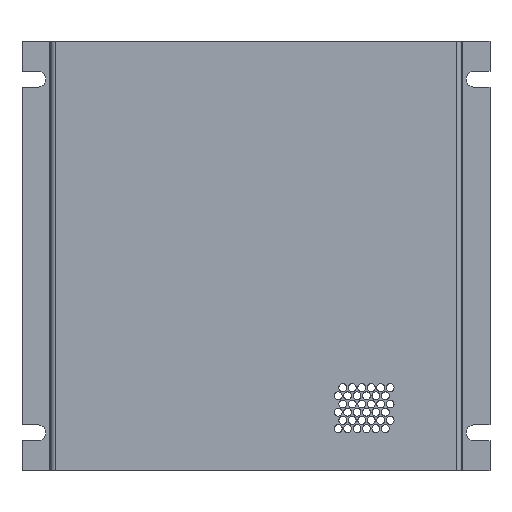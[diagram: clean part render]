
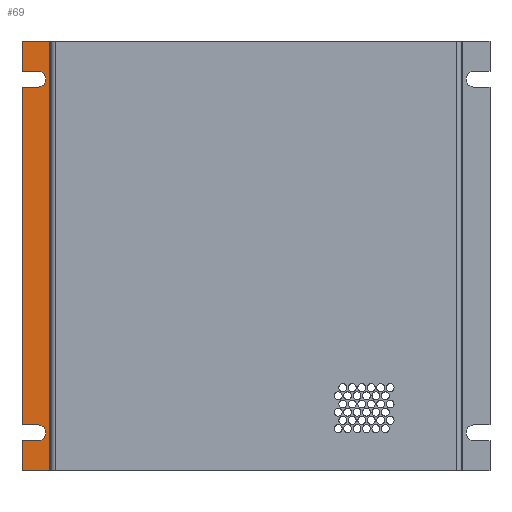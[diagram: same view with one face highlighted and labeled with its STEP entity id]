
A CAD part, front view. The second image highlights one B-rep face of the part: STEP entity #69.
In plain terms, the highlighted planar face has unit normal (0, -1, 0).
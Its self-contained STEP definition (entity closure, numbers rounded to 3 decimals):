
#69 = ADVANCED_FACE( '', ( #206 ), #207, .F. );
#206 = FACE_OUTER_BOUND( '', #462, .T. );
#207 = PLANE( '', #463 );
#462 = EDGE_LOOP( '', ( #832, #833, #834, #835, #836, #837, #838, #839, #840, #841, #842, #843 ) );
#463 = AXIS2_PLACEMENT_3D( '', #844, #845, #846 );
#832 = ORIENTED_EDGE( '', *, *, #1271, .F. );
#833 = ORIENTED_EDGE( '', *, *, #1298, .T. );
#834 = ORIENTED_EDGE( '', *, *, #1291, .F. );
#835 = ORIENTED_EDGE( '', *, *, #1295, .F. );
#836 = ORIENTED_EDGE( '', *, *, #1320, .F. );
#837 = ORIENTED_EDGE( '', *, *, #1321, .F. );
#838 = ORIENTED_EDGE( '', *, *, #1314, .F. );
#839 = ORIENTED_EDGE( '', *, *, #1322, .F. );
#840 = ORIENTED_EDGE( '', *, *, #1323, .F. );
#841 = ORIENTED_EDGE( '', *, *, #1300, .F. );
#842 = ORIENTED_EDGE( '', *, *, #1304, .F. );
#843 = ORIENTED_EDGE( '', *, *, #1307, .T. );
#844 = CARTESIAN_POINT( '', ( 0., 8.077, 0. ) );
#845 = DIRECTION( '', ( 0., 1., 0. ) );
#846 = DIRECTION( '', ( 0., 0., 1. ) );
#1271 = EDGE_CURVE( '', #1506, #1508, #1509, .T. );
#1291 = EDGE_CURVE( '', #1538, #1540, #1541, .F. );
#1295 = EDGE_CURVE( '', #1546, #1538, #1548, .T. );
#1298 = EDGE_CURVE( '', #1506, #1540, #1551, .T. );
#1300 = EDGE_CURVE( '', #1553, #1555, #1556, .T. );
#1304 = EDGE_CURVE( '', #1561, #1553, #1563, .F. );
#1307 = EDGE_CURVE( '', #1561, #1508, #1566, .T. );
#1314 = EDGE_CURVE( '', #1578, #1580, #1581, .T. );
#1320 = EDGE_CURVE( '', #1589, #1546, #1590, .T. );
#1321 = EDGE_CURVE( '', #1580, #1589, #1591, .T. );
#1322 = EDGE_CURVE( '', #1592, #1578, #1593, .T. );
#1323 = EDGE_CURVE( '', #1555, #1592, #1594, .T. );
#1506 = VERTEX_POINT( '', #1846 );
#1508 = VERTEX_POINT( '', #1849 );
#1509 = LINE( '', #1850, #1851 );
#1538 = VERTEX_POINT( '', #1894 );
#1540 = VERTEX_POINT( '', #1897 );
#1541 = CIRCLE( '', #1898, 3.962 );
#1546 = VERTEX_POINT( '', #1904 );
#1548 = LINE( '', #1907, #1908 );
#1551 = LINE( '', #1913, #1914 );
#1553 = VERTEX_POINT( '', #1916 );
#1555 = VERTEX_POINT( '', #1919 );
#1556 = LINE( '', #1920, #1921 );
#1561 = VERTEX_POINT( '', #1928 );
#1563 = CIRCLE( '', #1931, 3.962 );
#1566 = LINE( '', #1935, #1936 );
#1578 = VERTEX_POINT( '', #1951 );
#1580 = VERTEX_POINT( '', #1953 );
#1581 = LINE( '', #1954, #1955 );
#1589 = VERTEX_POINT( '', #1967 );
#1590 = LINE( '', #1968, #1969 );
#1591 = LINE( '', #1970, #1971 );
#1592 = VERTEX_POINT( '', #1972 );
#1593 = LINE( '', #1973, #1974 );
#1594 = LINE( '', #1975, #1976 );
#1846 = CARTESIAN_POINT( '', ( -117.615, 8.077, -84.938 ) );
#1849 = CARTESIAN_POINT( '', ( -117.615, 8.077, 84.938 ) );
#1850 = CARTESIAN_POINT( '', ( -117.615, 8.077, -107.95 ) );
#1851 = VECTOR( '', #2261, 1000. );
#1894 = CARTESIAN_POINT( '', ( -109.538, 8.077, -92.862 ) );
#1897 = CARTESIAN_POINT( '', ( -109.538, 8.077, -84.938 ) );
#1898 = AXIS2_PLACEMENT_3D( '', #2289, #2290, #2291 );
#1904 = CARTESIAN_POINT( '', ( -117.615, 8.077, -92.862 ) );
#1907 = CARTESIAN_POINT( '', ( 0., 8.077, -92.862 ) );
#1908 = VECTOR( '', #2297, 1000. );
#1913 = CARTESIAN_POINT( '', ( 0., 8.077, -84.938 ) );
#1914 = VECTOR( '', #2300, 1000. );
#1916 = CARTESIAN_POINT( '', ( -109.538, 8.077, 92.862 ) );
#1919 = CARTESIAN_POINT( '', ( -117.615, 8.077, 92.862 ) );
#1920 = CARTESIAN_POINT( '', ( 0., 8.077, 92.862 ) );
#1921 = VECTOR( '', #2302, 1000. );
#1928 = CARTESIAN_POINT( '', ( -109.538, 8.077, 84.938 ) );
#1931 = AXIS2_PLACEMENT_3D( '', #2306, #2307, #2308 );
#1935 = CARTESIAN_POINT( '', ( 0., 8.077, 84.938 ) );
#1936 = VECTOR( '', #2313, 1000. );
#1951 = CARTESIAN_POINT( '', ( -103.924, 8.077, 107.95 ) );
#1953 = CARTESIAN_POINT( '', ( -103.924, 8.077, -107.95 ) );
#1954 = CARTESIAN_POINT( '', ( -103.924, 8.077, 107.95 ) );
#1955 = VECTOR( '', #2326, 1000. );
#1967 = CARTESIAN_POINT( '', ( -117.615, 8.077, -107.95 ) );
#1968 = CARTESIAN_POINT( '', ( -117.615, 8.077, -107.95 ) );
#1969 = VECTOR( '', #2334, 1000. );
#1970 = CARTESIAN_POINT( '', ( -102.982, 8.077, -107.95 ) );
#1971 = VECTOR( '', #2335, 1000. );
#1972 = CARTESIAN_POINT( '', ( -117.615, 8.077, 107.95 ) );
#1973 = CARTESIAN_POINT( '', ( -117.615, 8.077, 107.95 ) );
#1974 = VECTOR( '', #2336, 1000. );
#1975 = CARTESIAN_POINT( '', ( -117.615, 8.077, -107.95 ) );
#1976 = VECTOR( '', #2337, 1000. );
#2261 = DIRECTION( '', ( 0., 0., 1. ) );
#2289 = CARTESIAN_POINT( '', ( -109.538, 8.077, -88.9 ) );
#2290 = DIRECTION( '', ( 0., 1., 0. ) );
#2291 = DIRECTION( '', ( 0., 0., 1. ) );
#2297 = DIRECTION( '', ( 1., 0., 0. ) );
#2300 = DIRECTION( '', ( 1., 0., 0. ) );
#2302 = DIRECTION( '', ( -1., 0., 0. ) );
#2306 = CARTESIAN_POINT( '', ( -109.538, 8.077, 88.9 ) );
#2307 = DIRECTION( '', ( 0., 1., 0. ) );
#2308 = DIRECTION( '', ( 0., 0., 1. ) );
#2313 = DIRECTION( '', ( -1., 0., 0. ) );
#2326 = DIRECTION( '', ( 0., 0., -1. ) );
#2334 = DIRECTION( '', ( 0., 0., 1. ) );
#2335 = DIRECTION( '', ( -1., 0., 0. ) );
#2336 = DIRECTION( '', ( 1., 0., 0. ) );
#2337 = DIRECTION( '', ( 0., 0., 1. ) );
